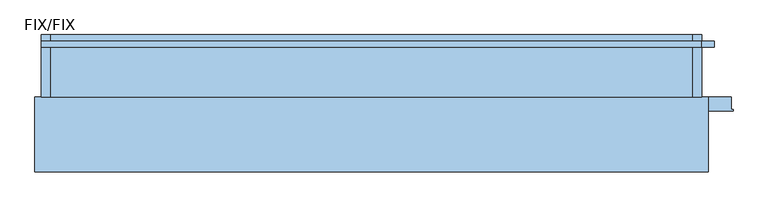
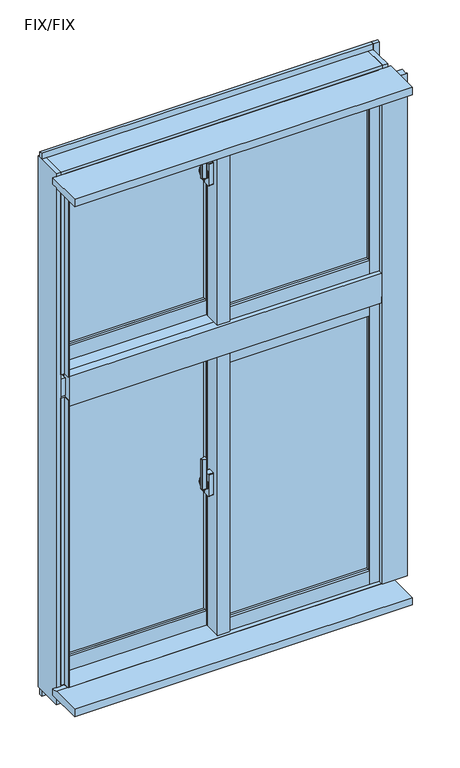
"""IFC4 building model written with IfcOpenShell, lengths in millimetres: window geometry, FNSⅡ100R_非防火_面付枠_段窓 : FIX/FIX."""

from ifc_helpers import new_model, si_unit, point, frame, frame_2d, origin, place, context, project, spatial, polyline, circle_curve, trimmed, segment, composite_curve, outline, extrude, faceted_brep, source, transform, mapped, element, save
from ifc_brep_helpers import plane_surface, cylinder_surface, revolved_surface, advanced_brep


def fix_fix_ce19e96b(model_context):
    return source(origin(), model_context, "Body", "SolidModel", [
        extrude(outline(composite_curve([segment(polyline([(-39.0, 34.6), (-39.0, 26.4)]), True, "CONTINUOUS"), segment(trimmed(circle_curve(frame_2d((-41.0, 26.4)), 2.0), [point((-39.0, 26.4))], [point((-41.3606557, 24.4327869))], False, "CARTESIAN"), True, "CONTINUOUS"), segment(polyline([(-41.3606557, 24.4327869), (-52.3606557, 26.4494536)]), True, "CONTINUOUS"), segment(trimmed(circle_curve(frame_2d((-52.0, 28.4166667)), 2.0), [point((-52.3606557, 26.4494536))], [point((-54.0, 28.4166667))], False, "CARTESIAN"), True, "CONTINUOUS"), segment(polyline([(-54.0, 28.4166667), (-54.0, 32.5833333)]), True, "CONTINUOUS"), segment(trimmed(circle_curve(frame_2d((-52.0, 32.5833333)), 2.0), [point((-54.0, 32.5833333))], [point((-52.3606557, 34.5505464))], False, "CARTESIAN"), True, "CONTINUOUS"), segment(polyline([(-52.3606557, 34.5505464), (-41.3606557, 36.5672131)]), True, "CONTINUOUS"), segment(trimmed(circle_curve(frame_2d((-41.0, 34.6)), 2.0), [point((-41.3606557, 36.5672131))], [point((-39.0, 34.6))], False, "CARTESIAN"), True, "CONTINUOUS")], self_intersect=False)), frame((0.0, 0.0, 2440.0), z_axis=(0.0, 0.0, 1.0), x_axis=(1.0, 0.0, 0.0)), (0.0, 0.0, 1.0), 100.0),
        advanced_brep(
        [(-37.5, 38.8234285, 2471.7333311), (-45.5, 38.8234285, 2471.7333311), (-45.5, 38.4351999, 2470.2844424), (-39.0, 38.4351999, 2470.2844424), (-39.0, 36.6234666, 2463.5229616), (-37.5, 36.6234666, 2463.5229616), (-39.0, 36.6466117, 2429.3190372), (-45.5, 36.6466117, 2429.3190372), (-45.5, 36.907084, 2427.8418256), (-37.5, 36.907084, 2427.8418256), (-37.5, 35.4310745, 2436.2126915), (-39.0, 35.4310745, 2436.2126915)],
        [
            (0, 1),
            (1, 2),
            (2, 3),
            (3, 4),
            (4, 5),
            (5, 0),
            (6, 7),
            (7, 8),
            (8, 9),
            (9, 10),
            (10, 11),
            (11, 6),
            (0, 9, circle_curve(frame((-37.5, 33.0, 2450.0), z_axis=(-1.0, 0.0, 0.0), x_axis=(0.0, 0.25881904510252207, 0.965925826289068)), 22.5)),
            (8, 1, circle_curve(frame((-45.5, 33.0, 2450.0), z_axis=(1.0, 0.0, 0.0), x_axis=(0.0, 0.25881904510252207, 0.965925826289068)), 22.5)),
            (7, 2, circle_curve(frame((-45.5, 33.0, 2450.0), z_axis=(1.0, 0.0, 0.0), x_axis=(0.0, 0.25881904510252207, 0.965925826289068)), 21.0)),
            (6, 3, circle_curve(frame((-39.0, 33.0, 2450.0), z_axis=(1.0, 0.0, 0.0), x_axis=(0.0, 0.25881904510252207, 0.965925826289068)), 21.0)),
            (11, 4, circle_curve(frame((-39.0, 33.0, 2450.0), z_axis=(-1.0, 0.0, 0.0), x_axis=(0.0, -1.0, 0.0)), 14.0)),
            (5, 10, circle_curve(frame((-37.5, 33.0, 2450.0), z_axis=(1.0, 0.0, 0.0), x_axis=(0.0, -1.0, 0.0)), 14.0)),
        ],
        [
            plane_surface(frame((-43.5470497, 33.0, 2450.0), z_axis=(0.0, -0.965925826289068, 0.25881904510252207), x_axis=(0.0, 0.25881904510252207, 0.965925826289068))),
            plane_surface(frame((-43.5470497, 33.0, 2450.0), z_axis=(0.0, -0.9848077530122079, -0.17364817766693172), x_axis=(0.0, 0.17364817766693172, -0.9848077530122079))),
            cylinder_surface(frame((-43.5470497, 33.0, 2450.0), z_axis=(-1.0, 0.0, 0.0), x_axis=(0.0, 0.25881904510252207, 0.965925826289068)), 22.5),
            plane_surface(frame((-45.5, 33.0, 2450.0), z_axis=(-1.0, 0.0, 0.0), x_axis=(0.0, 0.25881904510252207, 0.965925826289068))),
            revolved_surface(polyline([(-45.5, 38.43519994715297, 2470.2844423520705), (-39.0, 38.43519994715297, 2470.2844423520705)]), (-43.5470497, 33.0, 2450.0), (-1.0, 0.0, 0.0)),
            plane_surface(frame((-39.0, 33.0, 2450.0), z_axis=(-1.0, 0.0, 0.0), x_axis=(0.0, 0.25881904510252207, 0.965925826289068))),
            plane_surface(frame((-37.5, 33.0, 2450.0), z_axis=(1.0, 0.0, 0.0), x_axis=(0.0, 0.25881904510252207, 0.965925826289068))),
            cylinder_surface(frame((-37.5, 33.0, 2450.0), z_axis=(-1.0, 0.0, 0.0), x_axis=(0.0, -1.0, 0.0)), 14.0),
        ],
        [
            (0, [[1, 2, 3, 4, 5, 6]]),
            (1, [[7, 8, 9, 10, 11, 12]]),
            (2, [[-1, 13, -9, 14]]),
            (3, [[-2, -14, -8, 15]]),
            (4, [[-3, -15, -7, 16]]),
            (5, [[-16, -12, 17, -4]]),
            (6, [[-13, -6, 18, -10]]),
            (7, [[-17, -11, -18, -5]]),
        ],
    ),
        extrude(outline(composite_curve([segment(trimmed(circle_curve(frame_2d((33.0, 2450.0)), 11.5), [point((44.5, 2450.0))], [point((21.5, 2450.0))], False, "CARTESIAN"), True, "CONTINUOUS"), segment(trimmed(circle_curve(frame_2d((33.0, 2450.0)), 11.5), [point((21.5, 2450.0))], [point((44.5, 2450.0))], False, "CARTESIAN"), True, "CONTINUOUS")], self_intersect=False)), frame((-37.5, 0.0, 0.0), z_axis=(1.0, 0.0, 0.0), x_axis=(0.0, 1.0, 0.0)), (0.0, 0.0, 1.0), 2.5),
        extrude(outline(composite_curve([segment(polyline([(24.0, 2487.5), (42.0, 2487.5)]), True, "CONTINUOUS"), segment(trimmed(circle_curve(frame_2d((42.0, 2485.5)), 2.0), [point((42.0, 2487.5))], [point((44.0, 2485.5))], False, "CARTESIAN"), True, "CONTINUOUS"), segment(polyline([(44.0, 2485.5), (44.0, 2414.5)]), True, "CONTINUOUS"), segment(trimmed(circle_curve(frame_2d((42.0, 2414.5)), 2.0), [point((44.0, 2414.5))], [point((42.0, 2412.5))], False, "CARTESIAN"), True, "CONTINUOUS"), segment(polyline([(42.0, 2412.5), (24.0, 2412.5)]), True, "CONTINUOUS"), segment(trimmed(circle_curve(frame_2d((24.0, 2414.5)), 2.0), [point((24.0, 2412.5))], [point((22.0, 2414.5))], False, "CARTESIAN"), True, "CONTINUOUS"), segment(polyline([(22.0, 2414.5), (22.0, 2485.5)]), True, "CONTINUOUS"), segment(trimmed(circle_curve(frame_2d((24.0, 2485.5)), 2.0), [point((22.0, 2485.5))], [point((24.0, 2487.5))], False, "CARTESIAN"), True, "CONTINUOUS")], self_intersect=False)), frame((-35.0, 0.0, 0.0), z_axis=(1.0, 0.0, 0.0), x_axis=(0.0, 1.0, 0.0)), (0.0, 0.0, 1.0), 15.0),
        extrude(outline(polyline([(20.0, 24.0), (468.0, 24.0), (468.0, 18.0), (20.0, 18.0), (20.0, 24.0)])), frame((0.0, 0.0, 1998.0), z_axis=(0.0, 0.0, 1.0), x_axis=(1.0, 0.0, 0.0)), (0.0, 0.0, 1.0), 562.0),
        extrude(outline(polyline([(20.0, 42.0), (468.0, 42.0), (468.0, 36.0), (20.0, 36.0), (20.0, 42.0)])), frame((0.0, 0.0, 1998.0), z_axis=(0.0, 0.0, 1.0), x_axis=(1.0, 0.0, 0.0)), (0.0, 0.0, 1.0), 562.0),
        extrude(outline(polyline([(-468.0, 82.0), (-20.0, 82.0), (-20.0, 76.0), (-468.0, 76.0), (-468.0, 82.0)])), frame((0.0, 0.0, 1998.0), z_axis=(0.0, 0.0, 1.0), x_axis=(1.0, 0.0, 0.0)), (0.0, 0.0, 1.0), 562.0),
        extrude(outline(polyline([(-468.0, 100.0), (-20.0, 100.0), (-20.0, 94.0), (-468.0, 94.0), (-468.0, 100.0)])), frame((0.0, 0.0, 1998.0), z_axis=(0.0, 0.0, 1.0), x_axis=(1.0, 0.0, 0.0)), (0.0, 0.0, 1.0), 562.0),
        faceted_brep([(-500.0, 79.0, 2600.0), (-489.5, 79.0, 2600.0), (-489.5, 66.0, 2600.0), (-468.0, 66.0, 2600.0), (-468.0, 108.0, 2600.0), (-500.0, 108.0, 2600.0), (-468.0, 79.0, 1910.0), (-500.0, 79.0, 1910.0), (-500.0, 108.0, 1910.0), (-468.0, 108.0, 1910.0), (-468.0, 79.0, 1950.0), (-489.5, 79.0, 1950.0), (-489.5, 66.0, 1950.0), (-468.0, 66.0, 1950.0)], [[[0, 1, 2, 3, 4, 5]], [[6, 7, 8, 9]], [[1, 0, 7, 6, 10, 11]], [[2, 1, 11, 12]], [[3, 2, 12, 13]], [[4, 3, 13, 10, 6, 9]], [[5, 4, 9, 8]], [[7, 0, 5, 8]], [[11, 10, 13, 12]]]),
        faceted_brep([(-20.0, 65.5, 2600.0), (-1.8, 65.5, 2600.0), (-1.8, 53.1, 2600.0), (20.0, 53.1, 2600.0), (20.0, 108.0, 2600.0), (-20.0, 108.0, 2600.0), (-20.0, 108.0, 1910.0), (20.0, 108.0, 1910.0), (20.0, 79.0, 1910.0), (-20.0, 79.0, 1910.0), (-20.0, 65.5, 1950.0), (-1.8, 65.5, 1950.0), (-1.8, 53.1, 1950.0), (20.0, 53.1, 1950.0), (20.0, 79.0, 1950.0), (-20.0, 79.0, 1950.0)], [[[0, 1, 2, 3, 4, 5]], [[6, 7, 8, 9]], [[1, 0, 10, 11]], [[2, 1, 11, 12]], [[3, 2, 12, 13]], [[4, 3, 13, 14, 8, 7]], [[5, 4, 7, 6]], [[0, 5, 6, 9, 15, 10]], [[14, 15, 9, 8]], [[15, 14, 13, 12, 11, 10]]]),
        extrude(outline(polyline([(-20.0, 53.1), (-15.0, 53.1), (-15.0, 8.0), (15.0, 8.0), (15.0, 12.0), (20.0, 12.0), (20.0, 0.0), (-20.0, 0.0), (-20.0, 53.1)])), frame((0.0, 0.0, 1950.0), z_axis=(0.0, 0.0, 1.0), x_axis=(1.0, 0.0, 0.0)), (0.0, 0.0, 1.0), 650.0),
        extrude(outline(polyline([(-15.0, 53.1), (20.0, 53.1), (20.0, 12.0), (15.0, 12.0), (15.0, 8.0), (-15.0, 8.0), (-15.0, 53.1)])), frame((0.0, 0.0, 1950.0), z_axis=(0.0, 0.0, 1.0), x_axis=(1.0, 0.0, 0.0)), (0.0, 0.0, 1.0), 650.0),
        extrude(outline(polyline([(468.0, 0.0), (468.0, 8.0), (489.5, 8.0), (489.5, 21.0), (497.0, 21.0), (497.0, 0.0), (468.0, 0.0)])), frame((0.0, 0.0, 1953.0), z_axis=(0.0, 0.0, 1.0), x_axis=(1.0, 0.0, 0.0)), (0.0, 0.0, 1.0), 647.0),
        extrude(outline(polyline([(468.0, 50.0), (500.0, 50.0), (500.0, 21.0), (489.5, 21.0), (489.5, 8.0), (468.0, 8.0), (468.0, 50.0)])), frame((0.0, 0.0, 1950.0), z_axis=(0.0, 0.0, 1.0), x_axis=(1.0, 0.0, 0.0)), (0.0, 0.0, 1.0), 650.0),
        extrude(outline(polyline([(-1.85, 65.5), (-1.85, 58.0), (-20.0, 58.0), (-20.0, 65.5), (-1.85, 65.5)])), frame((0.0, 0.0, 1950.0), z_axis=(0.0, 0.0, 1.0), x_axis=(1.0, 0.0, 0.0)), (0.0, 0.0, 1.0), 650.0),
        extrude(outline(polyline([(-497.0, 79.0), (-489.5, 79.0), (-489.5, 66.0), (-468.0, 66.0), (-468.0, 58.0), (-497.0, 58.0), (-497.0, 79.0)])), frame((0.0, 0.0, 1950.0), z_axis=(0.0, 0.0, 1.0), x_axis=(1.0, 0.0, 0.0)), (0.0, 0.0, 1.0), 650.0),
        extrude(outline(polyline([(2.0, 1953.0), (2.0, 1998.0), (10.0, 1998.0), (10.0, 1975.5), (21.0, 1975.5), (21.0, 1953.0), (2.0, 1953.0)])), frame((20.0, 0.0, 0.0), z_axis=(1.0, 0.0, 0.0), x_axis=(0.0, 1.0, 0.0)), (0.0, 0.0, 1.0), 448.0),
        extrude(outline(polyline([(50.0, 1950.0), (21.0, 1950.0), (21.0, 1975.5), (10.0, 1975.5), (10.0, 1998.0), (50.0, 1998.0), (50.0, 1950.0)])), frame((20.0, 0.0, 0.0), z_axis=(1.0, 0.0, 0.0), x_axis=(0.0, 1.0, 0.0)), (0.0, 0.0, 1.0), 448.0),
        extrude(outline(polyline([(60.0, 1998.0), (68.0, 1998.0), (68.0, 1975.5), (79.0, 1975.5), (79.0, 1950.0), (60.0, 1950.0), (60.0, 1998.0)])), frame((-468.0, 0.0, 0.0), z_axis=(1.0, 0.0, 0.0), x_axis=(0.0, 1.0, 0.0)), (0.0, 0.0, 1.0), 448.0),
        extrude(outline(polyline([(108.0, 1910.0), (79.0, 1910.0), (79.0, 1975.5), (68.0, 1975.5), (68.0, 1998.0), (108.0, 1998.0), (108.0, 1910.0)])), frame((-468.0, 0.0, 0.0), z_axis=(1.0, 0.0, 0.0), x_axis=(0.0, 1.0, 0.0)), (0.0, 0.0, 1.0), 448.0),
        extrude(outline(polyline([(23.0, 2580.5), (10.0, 2580.5), (10.0, 2560.0), (2.0, 2560.0), (2.0, 2600.0), (23.0, 2600.0), (23.0, 2580.5)])), frame((20.0, 0.0, 0.0), z_axis=(1.0, 0.0, 0.0), x_axis=(0.0, 1.0, 0.0)), (0.0, 0.0, 1.0), 448.0),
        extrude(outline(polyline([(50.0, 2600.0), (50.0, 2560.0), (10.0, 2560.0), (10.0, 2580.5), (23.0, 2580.5), (23.0, 2600.0), (50.0, 2600.0)])), frame((20.0, 0.0, 0.0), z_axis=(1.0, 0.0, 0.0), x_axis=(0.0, 1.0, 0.0)), (0.0, 0.0, 1.0), 448.0),
        extrude(outline(polyline([(81.0, 2580.5), (68.0, 2580.5), (68.0, 2560.0), (60.0, 2560.0), (60.0, 2600.0), (81.0, 2600.0), (81.0, 2580.5)])), frame((-468.0, 0.0, 0.0), z_axis=(1.0, 0.0, 0.0), x_axis=(0.0, 1.0, 0.0)), (0.0, 0.0, 1.0), 448.0),
        extrude(outline(polyline([(108.0, 2600.0), (108.0, 2560.0), (68.0, 2560.0), (68.0, 2580.5), (81.0, 2580.5), (81.0, 2600.0), (108.0, 2600.0)])), frame((-468.0, 0.0, 0.0), z_axis=(1.0, 0.0, 0.0), x_axis=(0.0, 1.0, 0.0)), (0.0, 0.0, 1.0), 448.0),
        faceted_brep([(500.0, -10.0, 900.0), (500.0, 14.5, 900.0), (515.0, 14.5, 900.0), (515.0, 10.0, 900.0), (503.0, 10.0, 900.0), (503.0, -10.0, 900.0), (500.0, -10.0, 1870.0), (500.0, 14.5, 1870.0), (515.0, 14.5, 1870.0), (515.0, 10.0, 1870.0), (503.0, 10.0, 1870.0), (503.0, -10.0, 1870.0)], [[[0, 1, 2, 3, 4, 5]], [[1, 0, 6, 7]], [[2, 1, 7, 8]], [[3, 2, 8, 9]], [[4, 3, 9, 10]], [[5, 4, 10, 11]], [[0, 5, 11, 6]], [[6, 11, 10, 9, 8, 7]]]),
        faceted_brep([(500.0, 10.0, 2620.0), (500.0, 14.5, 2620.0), (500.0, 14.5, 1950.0), (500.0, -10.0, 1950.0), (500.0, -10.0, 2603.0), (500.0, 10.0, 2603.0), (515.0, 14.5, 2620.0), (515.0, 14.5, 1950.0), (515.0, 10.0, 2620.0), (515.0, 10.0, 1950.0), (503.0, 10.0, 2603.0), (503.0, 10.0, 1950.0), (503.0, -10.0, 2603.0), (503.0, -10.0, 1950.0)], [[[0, 1, 2, 3, 4, 5]], [[1, 6, 7, 2]], [[6, 8, 9, 7]], [[5, 10, 11, 9, 8, 0]], [[10, 12, 13, 11]], [[12, 4, 3, 13]], [[8, 6, 1, 0]], [[10, 5, 4, 12]], [[13, 3, 2, 7, 9, 11]]]),
        faceted_brep([(515.0, 110.0, 840.0), (515.0, 110.0, 849.0), (515.0, 76.0, 849.0), (515.0, 76.0, 884.0), (515.0, 10.0, 884.0), (515.0, 10.0, 840.0), (-515.0, 110.0, 840.0), (-515.0, 110.0, 849.0), (-515.0, 76.0, 849.0), (-515.0, 76.0, 884.0), (-515.0, 10.0, 884.0), (500.0, 37.25, 884.0), (500.0, 18.8, 884.0), (-15.0, 18.8, 884.0), (-15.0, 37.25, 884.0), (-515.0, 10.0, 840.0), (500.0, 18.8, 900.0), (500.0, 37.25, 900.0), (-15.0, 18.8, 900.0), (-15.0, 37.25, 900.0)], [[[0, 1, 2, 3, 4, 5]], [[1, 0, 6, 7]], [[2, 1, 7, 8]], [[3, 2, 8, 9]], [[4, 3, 9, 10], [11, 12, 13, 14]], [[5, 4, 10, 15]], [[0, 5, 15, 6]], [[6, 15, 10, 9, 8, 7]], [[16, 12, 11, 17]], [[12, 16, 18, 13]], [[18, 19, 14, 13]], [[17, 11, 14, 19]], [[16, 17, 19, 18]]]),
        faceted_brep([(500.0, 18.8, 1950.0), (500.0, 18.8, 1934.0), (500.0, 37.25, 1934.0), (500.0, 37.25, 1950.0), (-15.0, 18.8, 1950.0), (-15.0, 37.25, 1950.0), (-15.0, 37.25, 1934.0), (-15.0, 18.8, 1934.0)], [[[0, 1, 2, 3]], [[4, 5, 6, 7]], [[1, 0, 4, 7]], [[2, 1, 7, 6]], [[3, 2, 6, 5]], [[0, 3, 5, 4]]]),
        faceted_brep([(-515.0, 10.0, 900.0), (-515.0, 76.0, 900.0), (-500.0, 76.0, 900.0), (-500.0, -10.0, 900.0), (-503.0, -10.0, 900.0), (-503.0, 10.0, 900.0), (-515.0, 10.0, 1870.0), (-515.0, 76.0, 1870.0), (-500.0, 76.0, 1870.0), (-500.0, -10.0, 1870.0), (-503.0, -10.0, 1870.0), (-503.0, 10.0, 1870.0)], [[[0, 1, 2, 3, 4, 5]], [[1, 0, 6, 7]], [[2, 1, 7, 8]], [[3, 2, 8, 9]], [[4, 3, 9, 10]], [[5, 4, 10, 11]], [[0, 5, 11, 6]], [[6, 11, 10, 9, 8, 7]]]),
        faceted_brep([(-515.0, 10.0, 2620.0), (-515.0, 76.0, 2620.0), (-515.0, 76.0, 1950.0), (-515.0, 10.0, 1950.0), (-500.0, 76.0, 2620.0), (-500.0, 76.0, 1950.0), (-500.0, 10.0, 2620.0), (-500.0, 10.0, 2603.0), (-500.0, -10.0, 2603.0), (-500.0, -10.0, 1950.0), (-503.0, -10.0, 2603.0), (-503.0, -10.0, 1950.0), (-503.0, 10.0, 2603.0), (-503.0, 10.0, 1950.0)], [[[0, 1, 2, 3]], [[1, 4, 5, 2]], [[4, 6, 7, 8, 9, 5]], [[8, 10, 11, 9]], [[10, 12, 13, 11]], [[12, 7, 6, 0, 3, 13]], [[4, 1, 0, 6]], [[7, 12, 10, 8]], [[13, 3, 2, 5, 9, 11]]]),
        faceted_brep([(-530.0, 110.0, 840.0), (-515.0, 110.0, 840.0), (-515.0, 10.0, 840.0), (-530.0, 10.0, 840.0), (-530.0, 110.0, 2635.0), (-515.0, 110.0, 2635.0), (-515.0, 110.0, 2600.0), (-500.0, 110.0, 2600.0), (-500.0, 110.0, 1899.0), (-515.0, 110.0, 1899.0), (-515.0, 110.0, 1850.0), (-500.0, 110.0, 1850.0), (-500.0, 110.0, 849.0), (-515.0, 110.0, 849.0), (-515.0, 10.0, 2635.0), (-515.0, 76.0, 849.0), (-515.0, 76.0, 1850.0), (-515.0, 76.0, 1899.0), (-515.0, 76.0, 2600.0), (-530.0, 10.0, 2635.0), (-500.0, 76.0, 849.0), (-500.0, 76.0, 1850.0), (-500.0, 76.0, 2600.0), (-500.0, 76.0, 1899.0)], [[[0, 1, 2, 3]], [[4, 5, 6, 7, 8, 9, 10, 11, 12, 13, 1, 0]], [[5, 14, 2, 1, 13, 15, 16, 10, 9, 17, 18, 6]], [[14, 19, 3, 2]], [[19, 4, 0, 3]], [[12, 20, 15, 13]], [[21, 16, 15, 20]], [[11, 21, 20, 12]], [[4, 19, 14, 5]], [[11, 10, 16, 21]], [[7, 6, 18, 22]], [[8, 23, 17, 9]], [[22, 18, 17, 23]], [[7, 22, 23, 8]]]),
        faceted_brep([(515.0, 10.0, 840.0), (515.0, 110.0, 840.0), (530.0, 110.0, 840.0), (530.0, 10.0, 840.0), (515.0, 10.0, 2635.0), (515.0, 110.0, 2635.0), (515.0, 110.0, 2600.0), (515.0, 14.5, 2600.0), (515.0, 14.5, 1899.0), (515.0, 110.0, 1899.0), (515.0, 110.0, 1850.0), (515.0, 14.5, 1850.0), (515.0, 14.5, 849.0), (515.0, 110.0, 849.0), (530.0, 110.0, 2635.0), (500.0, 110.0, 849.0), (500.0, 110.0, 1850.0), (500.0, 110.0, 1899.0), (500.0, 110.0, 2600.0), (530.0, 10.0, 2635.0), (500.0, 14.5, 849.0), (500.0, 14.5, 1850.0), (500.0, 14.5, 2600.0), (500.0, 14.5, 1899.0)], [[[0, 1, 2, 3]], [[4, 5, 6, 7, 8, 9, 10, 11, 12, 13, 1, 0]], [[5, 14, 2, 1, 13, 15, 16, 10, 9, 17, 18, 6]], [[14, 19, 3, 2]], [[19, 4, 0, 3]], [[20, 15, 13, 12]], [[21, 16, 15, 20]], [[11, 21, 20, 12]], [[4, 19, 14, 5]], [[21, 11, 10, 16]], [[22, 7, 6, 18]], [[23, 17, 9, 8]], [[7, 22, 23, 8]], [[22, 18, 17, 23]]]),
        faceted_brep([(503.0, -10.0, 900.0), (503.0, -10.0, 897.0), (503.0, 10.0, 897.0), (503.0, 10.0, 884.0), (503.0, 14.5, 884.0), (503.0, 14.5, 900.0), (-503.0, 10.0, 884.0), (-503.0, 10.0, 897.0), (-503.0, -10.0, 897.0), (-503.0, -10.0, 900.0), (-503.0, 18.8, 900.0), (-503.0, 18.8, 884.0), (500.0, 14.5, 900.0), (500.0, 18.8, 900.0), (-15.0, 18.8, 900.0), (-15.0, 76.0, 900.0), (-500.0, 76.0, 900.0), (-500.0, 18.8, 900.0), (-500.0, 18.8, 884.0), (500.0, 18.8, 884.0), (-15.0, 18.8, 884.0), (-500.0, 76.0, 884.0), (-15.0, 76.0, 884.0), (500.0, 14.5, 884.0)], [[[0, 1, 2, 3, 4, 5]], [[6, 7, 8, 9, 10, 11]], [[3, 2, 7, 6]], [[2, 1, 8, 7]], [[1, 0, 9, 8]], [[10, 9, 0, 5, 12, 13, 14, 15, 16, 17]], [[11, 10, 17, 18]], [[13, 19, 20, 14]], [[6, 11, 18, 21, 22, 20, 19, 23, 4, 3]], [[12, 23, 19, 13]], [[23, 12, 5, 4]], [[15, 14, 20, 22]], [[16, 21, 18, 17]], [[15, 22, 21, 16]]]),
        faceted_brep([(500.0, 31.9, 2600.0), (500.0, 31.9, 2625.0), (500.0, 10.0, 2625.0), (500.0, 10.0, 2603.0), (500.0, -10.0, 2603.0), (500.0, -10.0, 2600.0), (-500.0, 31.9, 2600.0), (-500.0, -10.0, 2600.0), (-500.0, -10.0, 2603.0), (-500.0, 10.0, 2603.0), (-500.0, 10.0, 2625.0), (-500.0, 31.9, 2625.0)], [[[0, 1, 2, 3, 4, 5]], [[6, 7, 8, 9, 10, 11]], [[1, 0, 6, 11]], [[2, 1, 11, 10]], [[3, 2, 10, 9]], [[4, 3, 9, 8]], [[5, 4, 8, 7]], [[0, 5, 7, 6]]]),
        faceted_brep([(500.0, 31.9, 1875.0), (500.0, 10.0, 1875.0), (500.0, 10.0, 1934.0), (500.0, 18.8, 1934.0), (500.0, 18.8, 1950.0), (500.0, -10.0, 1950.0), (500.0, -10.0, 1870.0), (500.0, -10.0, 1850.0), (500.0, 31.9, 1850.0), (500.0, 31.9, 1870.0), (-500.0, 31.9, 1850.0), (-500.0, -10.0, 1850.0), (-500.0, -10.0, 1870.0), (-500.0, -10.0, 1950.0), (-500.0, 18.8, 1950.0), (-500.0, 18.8, 1934.0), (-500.0, 10.0, 1934.0), (-500.0, 10.0, 1875.0), (-500.0, 31.9, 1875.0), (-500.0, 31.9, 1870.0)], [[[0, 1, 2, 3, 4, 5, 6, 7, 8, 9]], [[10, 11, 12, 13, 14, 15, 16, 17, 18, 19]], [[8, 10, 19, 18, 0, 9]], [[1, 0, 18, 17]], [[5, 13, 12, 11, 7, 6]], [[8, 7, 11, 10]], [[2, 1, 17, 16]], [[3, 2, 16, 15]], [[4, 3, 15, 14]], [[5, 4, 14, 13]]]),
        extrude(outline(polyline([(-15.0, 80.3), (-15.0, 31.9), (-500.0, 31.9), (-500.0, 80.3), (-15.0, 80.3)])), frame((0.0, 0.0, 2600.0), z_axis=(0.0, 0.0, 1.0), x_axis=(1.0, 0.0, 0.0)), (0.0, 0.0, 1.0), 25.0),
        extrude(outline(polyline([(-15.0, 76.0), (-15.0, 18.8), (-500.0, 18.8), (-500.0, 76.0), (-15.0, 76.0)])), frame((0.0, 0.0, 1934.0), z_axis=(0.0, 0.0, 1.0), x_axis=(1.0, 0.0, 0.0)), (0.0, 0.0, 1.0), 16.0),
        extrude(outline(polyline([(-15.0, 80.3), (-15.0, 31.9), (-500.0, 31.9), (-500.0, 80.3), (-15.0, 80.3)])), frame((0.0, 0.0, 1850.0), z_axis=(0.0, 0.0, 1.0), x_axis=(1.0, 0.0, 0.0)), (0.0, 0.0, 1.0), 25.0),
        faceted_brep([(515.0, 110.0, 2600.0), (515.0, 110.0, 2635.0), (515.0, 10.0, 2635.0), (515.0, 10.0, 2625.0), (515.0, 80.3, 2625.0), (515.0, 80.3, 2600.0), (-515.0, 110.0, 2600.0), (-515.0, 80.3, 2600.0), (-515.0, 80.3, 2625.0), (-515.0, 10.0, 2625.0), (-515.0, 10.0, 2635.0), (-515.0, 110.0, 2635.0), (-15.0, 80.3, 2625.0), (-15.0, 31.9, 2625.0), (500.0, 31.9, 2625.0), (500.0, 80.3, 2625.0), (500.0, 80.3, 2600.0), (-15.0, 80.3, 2600.0), (500.0, 31.9, 2600.0), (-15.0, 31.9, 2600.0)], [[[0, 1, 2, 3, 4, 5]], [[6, 7, 8, 9, 10, 11]], [[1, 0, 6, 11]], [[2, 1, 11, 10]], [[3, 2, 10, 9]], [[4, 3, 9, 8, 12, 13, 14, 15]], [[5, 4, 15, 16]], [[8, 7, 17, 12]], [[0, 5, 16, 18, 19, 17, 7, 6]], [[14, 18, 16, 15]], [[17, 19, 13, 12]], [[18, 14, 13, 19]]]),
        faceted_brep([(515.0, 110.0, 1850.0), (515.0, 110.0, 1899.0), (515.0, 76.0, 1899.0), (515.0, 76.0, 1934.0), (515.0, 10.0, 1934.0), (515.0, 10.0, 1875.0), (515.0, 80.3, 1875.0), (515.0, 80.3, 1850.0), (-515.0, 110.0, 1850.0), (-515.0, 80.3, 1850.0), (-515.0, 80.3, 1875.0), (-515.0, 10.0, 1875.0), (-515.0, 10.0, 1934.0), (-515.0, 76.0, 1934.0), (-515.0, 76.0, 1899.0), (-515.0, 110.0, 1899.0), (500.0, 31.9, 1850.0), (500.0, 80.3, 1850.0), (500.0, 80.3, 1870.0), (500.0, 80.3, 1875.0), (500.0, 31.9, 1875.0), (500.0, 31.9, 1870.0), (-15.0, 80.3, 1850.0), (-15.0, 31.9, 1850.0), (-15.0, 31.9, 1875.0), (-15.0, 80.3, 1875.0)], [[[0, 1, 2, 3, 4, 5, 6, 7]], [[8, 9, 10, 11, 12, 13, 14, 15]], [[16, 17, 18, 19, 20, 21]], [[22, 23, 24, 25]], [[1, 0, 8, 15]], [[2, 1, 15, 14]], [[3, 2, 14, 13]], [[4, 3, 13, 12]], [[5, 4, 12, 11]], [[6, 5, 11, 10, 25, 24, 20, 19]], [[7, 6, 19, 18, 17]], [[10, 9, 22, 25]], [[0, 7, 17, 16, 23, 22, 9, 8]], [[24, 23, 16, 21, 20]]]),
        extrude(outline(composite_curve([segment(polyline([(-39.0, 34.6), (-39.0, 26.4)]), True, "CONTINUOUS"), segment(trimmed(circle_curve(frame_2d((-41.0, 26.4)), 2.0), [point((-39.0, 26.4))], [point((-41.3606557, 24.4327869))], False, "CARTESIAN"), True, "CONTINUOUS"), segment(polyline([(-41.3606557, 24.4327869), (-52.3606557, 26.4494536)]), True, "CONTINUOUS"), segment(trimmed(circle_curve(frame_2d((-52.0, 28.4166667)), 2.0), [point((-52.3606557, 26.4494536))], [point((-54.0, 28.4166667))], False, "CARTESIAN"), True, "CONTINUOUS"), segment(polyline([(-54.0, 28.4166667), (-54.0, 32.5833333)]), True, "CONTINUOUS"), segment(trimmed(circle_curve(frame_2d((-52.0, 32.5833333)), 2.0), [point((-54.0, 32.5833333))], [point((-52.3606557, 34.5505464))], False, "CARTESIAN"), True, "CONTINUOUS"), segment(polyline([(-52.3606557, 34.5505464), (-41.3606557, 36.5672131)]), True, "CONTINUOUS"), segment(trimmed(circle_curve(frame_2d((-41.0, 34.6)), 2.0), [point((-41.3606557, 36.5672131))], [point((-39.0, 34.6))], False, "CARTESIAN"), True, "CONTINUOUS")], self_intersect=False)), frame((0.0, 0.0, 1390.0), z_axis=(0.0, 0.0, 1.0), x_axis=(1.0, 0.0, 0.0)), (0.0, 0.0, 1.0), 100.0),
        advanced_brep(
        [(-37.5, 38.8234285, 1421.7333311), (-45.5, 38.8234285, 1421.7333311), (-45.5, 38.4351999, 1420.2844424), (-39.0, 38.4351999, 1420.2844424), (-39.0, 36.6234666, 1413.5229616), (-37.5, 36.6234666, 1413.5229616), (-39.0, 36.6466117, 1379.3190372), (-45.5, 36.6466117, 1379.3190372), (-45.5, 36.907084, 1377.8418256), (-37.5, 36.907084, 1377.8418256), (-37.5, 35.4310745, 1386.2126915), (-39.0, 35.4310745, 1386.2126915)],
        [
            (0, 1),
            (1, 2),
            (2, 3),
            (3, 4),
            (4, 5),
            (5, 0),
            (6, 7),
            (7, 8),
            (8, 9),
            (9, 10),
            (10, 11),
            (11, 6),
            (0, 9, circle_curve(frame((-37.5, 33.0, 1400.0), z_axis=(-1.0, 0.0, 0.0), x_axis=(0.0, 0.25881904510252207, 0.965925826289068)), 22.5)),
            (8, 1, circle_curve(frame((-45.5, 33.0, 1400.0), z_axis=(1.0, 0.0, 0.0), x_axis=(0.0, 0.25881904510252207, 0.965925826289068)), 22.5)),
            (7, 2, circle_curve(frame((-45.5, 33.0, 1400.0), z_axis=(1.0, 0.0, 0.0), x_axis=(0.0, 0.25881904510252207, 0.965925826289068)), 21.0)),
            (6, 3, circle_curve(frame((-39.0, 33.0, 1400.0), z_axis=(1.0, 0.0, 0.0), x_axis=(0.0, 0.25881904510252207, 0.965925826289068)), 21.0)),
            (11, 4, circle_curve(frame((-39.0, 33.0, 1400.0), z_axis=(-1.0, 0.0, 0.0), x_axis=(0.0, -1.0, 0.0)), 14.0)),
            (5, 10, circle_curve(frame((-37.5, 33.0, 1400.0), z_axis=(1.0, 0.0, 0.0), x_axis=(0.0, -1.0, 0.0)), 14.0)),
        ],
        [
            plane_surface(frame((-43.5470497, 33.0, 1400.0), z_axis=(0.0, -0.965925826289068, 0.25881904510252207), x_axis=(0.0, 0.25881904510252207, 0.965925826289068))),
            plane_surface(frame((-43.5470497, 33.0, 1400.0), z_axis=(0.0, -0.9848077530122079, -0.17364817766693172), x_axis=(0.0, 0.17364817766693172, -0.9848077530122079))),
            cylinder_surface(frame((-43.5470497, 33.0, 1400.0), z_axis=(-1.0, 0.0, 0.0), x_axis=(0.0, 0.25881904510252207, 0.965925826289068)), 22.5),
            plane_surface(frame((-45.5, 33.0, 1400.0), z_axis=(-1.0, 0.0, 0.0), x_axis=(0.0, 0.25881904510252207, 0.965925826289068))),
            revolved_surface(polyline([(-45.5, 38.43519994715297, 1420.2844423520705), (-39.0, 38.43519994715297, 1420.2844423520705)]), (-43.5470497, 33.0, 1400.0), (-1.0, 0.0, 0.0)),
            plane_surface(frame((-39.0, 33.0, 1400.0), z_axis=(-1.0, 0.0, 0.0), x_axis=(0.0, 0.25881904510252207, 0.965925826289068))),
            plane_surface(frame((-37.5, 33.0, 1400.0), z_axis=(1.0, 0.0, 0.0), x_axis=(0.0, 0.25881904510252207, 0.965925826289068))),
            cylinder_surface(frame((-37.5, 33.0, 1400.0), z_axis=(-1.0, 0.0, 0.0), x_axis=(0.0, -1.0, 0.0)), 14.0),
        ],
        [
            (0, [[1, 2, 3, 4, 5, 6]]),
            (1, [[7, 8, 9, 10, 11, 12]]),
            (2, [[-1, 13, -9, 14]]),
            (3, [[-2, -14, -8, 15]]),
            (4, [[-3, -15, -7, 16]]),
            (5, [[-16, -12, 17, -4]]),
            (6, [[-13, -6, 18, -10]]),
            (7, [[-17, -11, -18, -5]]),
        ],
    ),
        extrude(outline(composite_curve([segment(trimmed(circle_curve(frame_2d((33.0, 1400.0)), 11.5), [point((44.5, 1400.0))], [point((21.5, 1400.0))], False, "CARTESIAN"), True, "CONTINUOUS"), segment(trimmed(circle_curve(frame_2d((33.0, 1400.0)), 11.5), [point((21.5, 1400.0))], [point((44.5, 1400.0))], False, "CARTESIAN"), True, "CONTINUOUS")], self_intersect=False)), frame((-37.5, 0.0, 0.0), z_axis=(1.0, 0.0, 0.0), x_axis=(0.0, 1.0, 0.0)), (0.0, 0.0, 1.0), 2.5),
        extrude(outline(composite_curve([segment(polyline([(24.0, 1437.5), (42.0, 1437.5)]), True, "CONTINUOUS"), segment(trimmed(circle_curve(frame_2d((42.0, 1435.5)), 2.0), [point((42.0, 1437.5))], [point((44.0, 1435.5))], False, "CARTESIAN"), True, "CONTINUOUS"), segment(polyline([(44.0, 1435.5), (44.0, 1364.5)]), True, "CONTINUOUS"), segment(trimmed(circle_curve(frame_2d((42.0, 1364.5)), 2.0), [point((44.0, 1364.5))], [point((42.0, 1362.5))], False, "CARTESIAN"), True, "CONTINUOUS"), segment(polyline([(42.0, 1362.5), (24.0, 1362.5)]), True, "CONTINUOUS"), segment(trimmed(circle_curve(frame_2d((24.0, 1364.5)), 2.0), [point((24.0, 1362.5))], [point((22.0, 1364.5))], False, "CARTESIAN"), True, "CONTINUOUS"), segment(polyline([(22.0, 1364.5), (22.0, 1435.5)]), True, "CONTINUOUS"), segment(trimmed(circle_curve(frame_2d((24.0, 1435.5)), 2.0), [point((22.0, 1435.5))], [point((24.0, 1437.5))], False, "CARTESIAN"), True, "CONTINUOUS")], self_intersect=False)), frame((-35.0, 0.0, 0.0), z_axis=(1.0, 0.0, 0.0), x_axis=(0.0, 1.0, 0.0)), (0.0, 0.0, 1.0), 15.0),
        extrude(outline(polyline([(20.0, 24.0), (468.0, 24.0), (468.0, 18.0), (20.0, 18.0), (20.0, 24.0)])), frame((0.0, 0.0, 948.0), z_axis=(0.0, 0.0, 1.0), x_axis=(1.0, 0.0, 0.0)), (0.0, 0.0, 1.0), 862.0),
        extrude(outline(polyline([(20.0, 42.0), (468.0, 42.0), (468.0, 36.0), (20.0, 36.0), (20.0, 42.0)])), frame((0.0, 0.0, 948.0), z_axis=(0.0, 0.0, 1.0), x_axis=(1.0, 0.0, 0.0)), (0.0, 0.0, 1.0), 862.0),
        extrude(outline(polyline([(-468.0, 82.0), (-20.0, 82.0), (-20.0, 76.0), (-468.0, 76.0), (-468.0, 82.0)])), frame((0.0, 0.0, 948.0), z_axis=(0.0, 0.0, 1.0), x_axis=(1.0, 0.0, 0.0)), (0.0, 0.0, 1.0), 862.0),
        extrude(outline(polyline([(-468.0, 100.0), (-20.0, 100.0), (-20.0, 94.0), (-468.0, 94.0), (-468.0, 100.0)])), frame((0.0, 0.0, 948.0), z_axis=(0.0, 0.0, 1.0), x_axis=(1.0, 0.0, 0.0)), (0.0, 0.0, 1.0), 862.0),
        faceted_brep([(-500.0, 79.0, 1850.0), (-489.5, 79.0, 1850.0), (-489.5, 66.0, 1850.0), (-468.0, 66.0, 1850.0), (-468.0, 108.0, 1850.0), (-500.0, 108.0, 1850.0), (-468.0, 79.0, 860.0), (-500.0, 79.0, 860.0), (-500.0, 108.0, 860.0), (-468.0, 108.0, 860.0), (-468.0, 79.0, 900.0), (-489.5, 79.0, 900.0), (-489.5, 66.0, 900.0), (-468.0, 66.0, 900.0)], [[[0, 1, 2, 3, 4, 5]], [[6, 7, 8, 9]], [[1, 0, 7, 6, 10, 11]], [[2, 1, 11, 12]], [[3, 2, 12, 13]], [[4, 3, 13, 10, 6, 9]], [[5, 4, 9, 8]], [[7, 0, 5, 8]], [[11, 10, 13, 12]]]),
        faceted_brep([(-20.0, 65.5, 1850.0), (-1.8, 65.5, 1850.0), (-1.8, 53.1, 1850.0), (20.0, 53.1, 1850.0), (20.0, 108.0, 1850.0), (-20.0, 108.0, 1850.0), (-20.0, 108.0, 860.0), (20.0, 108.0, 860.0), (20.0, 79.0, 860.0), (-20.0, 79.0, 860.0), (-20.0, 65.5, 900.0), (-1.8, 65.5, 900.0), (-1.8, 53.1, 900.0), (20.0, 53.1, 900.0), (20.0, 79.0, 900.0), (-20.0, 79.0, 900.0)], [[[0, 1, 2, 3, 4, 5]], [[6, 7, 8, 9]], [[1, 0, 10, 11]], [[2, 1, 11, 12]], [[3, 2, 12, 13]], [[4, 3, 13, 14, 8, 7]], [[5, 4, 7, 6]], [[0, 5, 6, 9, 15, 10]], [[14, 15, 9, 8]], [[15, 14, 13, 12, 11, 10]]]),
        extrude(outline(polyline([(-20.0, 53.1), (-15.0, 53.1), (-15.0, 8.0), (15.0, 8.0), (15.0, 12.0), (20.0, 12.0), (20.0, 0.0), (-20.0, 0.0), (-20.0, 53.1)])), frame((0.0, 0.0, 900.0), z_axis=(0.0, 0.0, 1.0), x_axis=(1.0, 0.0, 0.0)), (0.0, 0.0, 1.0), 950.0),
        extrude(outline(polyline([(-15.0, 53.1), (20.0, 53.1), (20.0, 12.0), (15.0, 12.0), (15.0, 8.0), (-15.0, 8.0), (-15.0, 53.1)])), frame((0.0, 0.0, 900.0), z_axis=(0.0, 0.0, 1.0), x_axis=(1.0, 0.0, 0.0)), (0.0, 0.0, 1.0), 950.0),
        extrude(outline(polyline([(468.0, 0.0), (468.0, 8.0), (489.5, 8.0), (489.5, 21.0), (497.0, 21.0), (497.0, 0.0), (468.0, 0.0)])), frame((0.0, 0.0, 903.0), z_axis=(0.0, 0.0, 1.0), x_axis=(1.0, 0.0, 0.0)), (0.0, 0.0, 1.0), 947.0),
        extrude(outline(polyline([(468.0, 50.0), (500.0, 50.0), (500.0, 21.0), (489.5, 21.0), (489.5, 8.0), (468.0, 8.0), (468.0, 50.0)])), frame((0.0, 0.0, 900.0), z_axis=(0.0, 0.0, 1.0), x_axis=(1.0, 0.0, 0.0)), (0.0, 0.0, 1.0), 950.0),
        extrude(outline(polyline([(-1.85, 65.5), (-1.85, 58.0), (-20.0, 58.0), (-20.0, 65.5), (-1.85, 65.5)])), frame((0.0, 0.0, 900.0), z_axis=(0.0, 0.0, 1.0), x_axis=(1.0, 0.0, 0.0)), (0.0, 0.0, 1.0), 950.0),
        extrude(outline(polyline([(-497.0, 79.0), (-489.5, 79.0), (-489.5, 66.0), (-468.0, 66.0), (-468.0, 58.0), (-497.0, 58.0), (-497.0, 79.0)])), frame((0.0, 0.0, 900.0), z_axis=(0.0, 0.0, 1.0), x_axis=(1.0, 0.0, 0.0)), (0.0, 0.0, 1.0), 950.0),
        extrude(outline(polyline([(2.0, 903.0), (2.0, 948.0), (10.0, 948.0), (10.0, 925.5), (21.0, 925.5), (21.0, 903.0), (2.0, 903.0)])), frame((20.0, 0.0, 0.0), z_axis=(1.0, 0.0, 0.0), x_axis=(0.0, 1.0, 0.0)), (0.0, 0.0, 1.0), 448.0),
        extrude(outline(polyline([(50.0, 900.0), (21.0, 900.0), (21.0, 925.5), (10.0, 925.5), (10.0, 948.0), (50.0, 948.0), (50.0, 900.0)])), frame((20.0, 0.0, 0.0), z_axis=(1.0, 0.0, 0.0), x_axis=(0.0, 1.0, 0.0)), (0.0, 0.0, 1.0), 448.0),
        extrude(outline(polyline([(60.0, 948.0), (68.0, 948.0), (68.0, 925.5), (79.0, 925.5), (79.0, 900.0), (60.0, 900.0), (60.0, 948.0)])), frame((-468.0, 0.0, 0.0), z_axis=(1.0, 0.0, 0.0), x_axis=(0.0, 1.0, 0.0)), (0.0, 0.0, 1.0), 448.0),
        extrude(outline(polyline([(108.0, 860.0), (79.0, 860.0), (79.0, 925.5), (68.0, 925.5), (68.0, 948.0), (108.0, 948.0), (108.0, 860.0)])), frame((-468.0, 0.0, 0.0), z_axis=(1.0, 0.0, 0.0), x_axis=(0.0, 1.0, 0.0)), (0.0, 0.0, 1.0), 448.0),
        extrude(outline(polyline([(23.0, 1830.5), (10.0, 1830.5), (10.0, 1810.0), (2.0, 1810.0), (2.0, 1850.0), (23.0, 1850.0), (23.0, 1830.5)])), frame((20.0, 0.0, 0.0), z_axis=(1.0, 0.0, 0.0), x_axis=(0.0, 1.0, 0.0)), (0.0, 0.0, 1.0), 448.0),
        extrude(outline(polyline([(50.0, 1850.0), (50.0, 1810.0), (10.0, 1810.0), (10.0, 1830.5), (23.0, 1830.5), (23.0, 1850.0), (50.0, 1850.0)])), frame((20.0, 0.0, 0.0), z_axis=(1.0, 0.0, 0.0), x_axis=(0.0, 1.0, 0.0)), (0.0, 0.0, 1.0), 448.0),
        extrude(outline(polyline([(81.0, 1830.5), (68.0, 1830.5), (68.0, 1810.0), (60.0, 1810.0), (60.0, 1850.0), (81.0, 1850.0), (81.0, 1830.5)])), frame((-468.0, 0.0, 0.0), z_axis=(1.0, 0.0, 0.0), x_axis=(0.0, 1.0, 0.0)), (0.0, 0.0, 1.0), 448.0),
        extrude(outline(polyline([(108.0, 1850.0), (108.0, 1810.0), (68.0, 1810.0), (68.0, 1830.5), (81.0, 1830.5), (81.0, 1850.0), (108.0, 1850.0)])), frame((-468.0, 0.0, 0.0), z_axis=(1.0, 0.0, 0.0), x_axis=(0.0, 1.0, 0.0)), (0.0, 0.0, 1.0), 448.0),
        extrude(outline(polyline([(-110.0, 875.0), (-110.0, 900.0), (-10.0, 900.0), (-10.0, 897.0), (10.0, 897.0), (10.0, 875.0), (-110.0, 875.0)])), frame((-540.0, 0.0, 0.0), z_axis=(1.0, 0.0, 0.0), x_axis=(0.0, 1.0, 0.0)), (0.0, 0.0, 1.0), 1080.0),
        extrude(outline(polyline([(-530.0, 90.0), (-530.0, 100.0), (530.0, 100.0), (530.0, 90.0), (-530.0, 90.0)])), frame((0.0, 0.0, 820.0), z_axis=(0.0, 0.0, 1.0), x_axis=(1.0, 0.0, 0.0)), (0.0, 0.0, 1.0), 20.0),
        extrude(outline(polyline([(550.0, 90.0), (530.0, 90.0), (530.0, 100.0), (550.0, 100.0), (550.0, 90.0)])), frame((0.0, 0.0, 820.0), z_axis=(0.0, 0.0, 1.0), x_axis=(1.0, 0.0, 0.0)), (0.0, 0.0, 1.0), 1835.0),
        extrude(outline(polyline([(503.0, -10.0), (503.0, 10.0), (577.0, 10.0), (577.0, -10.0), (580.0, -10.0), (580.0, -12.5), (500.0, -12.5), (500.0, -10.0), (503.0, -10.0)])), frame((0.0, 0.0, 900.0), z_axis=(0.0, 0.0, 1.0), x_axis=(1.0, 0.0, 0.0)), (0.0, 0.0, 1.0), 1700.0),
        extrude(outline(polyline([(-110.0, 2625.0), (10.0, 2625.0), (10.0, 2603.0), (-10.0, 2603.0), (-10.0, 2600.0), (-110.0, 2600.0), (-110.0, 2625.0)])), frame((-540.0, 0.0, 0.0), z_axis=(1.0, 0.0, 0.0), x_axis=(0.0, 1.0, 0.0)), (0.0, 0.0, 1.0), 1080.0),
        extrude(outline(polyline([(-530.0, 90.0), (-530.0, 100.0), (530.0, 100.0), (530.0, 90.0), (-530.0, 90.0)])), frame((0.0, 0.0, 2635.0), z_axis=(0.0, 0.0, 1.0), x_axis=(1.0, 0.0, 0.0)), (0.0, 0.0, 1.0), 20.0),
    ])


if __name__ == "__main__":
    model = new_model("IFC4")
    model_context = context("Model", 3, world=origin())
    ifc_project = project(units=[si_unit("LENGTHUNIT", "METRE", prefix="MILLI")], contexts=[model_context])
    site = spatial("IfcSite", under=ifc_project)
    building = spatial("IfcBuilding", under=site)
    placement = place(None, origin())
    fix_fix_shape = fix_fix_ce19e96b(model_context)
    element("IfcWindow", 1, ObjectType="FNSⅡ100R_非防火_面付枠_段窓 : FIX/FIX", at=placement, inside=building, context=model_context, shape_type="MappedRepresentation", body=[
        mapped(fix_fix_shape, transform((0.0, 0.0, 0.0), x_axis=(1.0, 0.0, 0.0), y_axis=(0.0, 1.0, 0.0), z_axis=(0.0, 0.0, 1.0))),
    ])
    save(model, "model.ifc")
